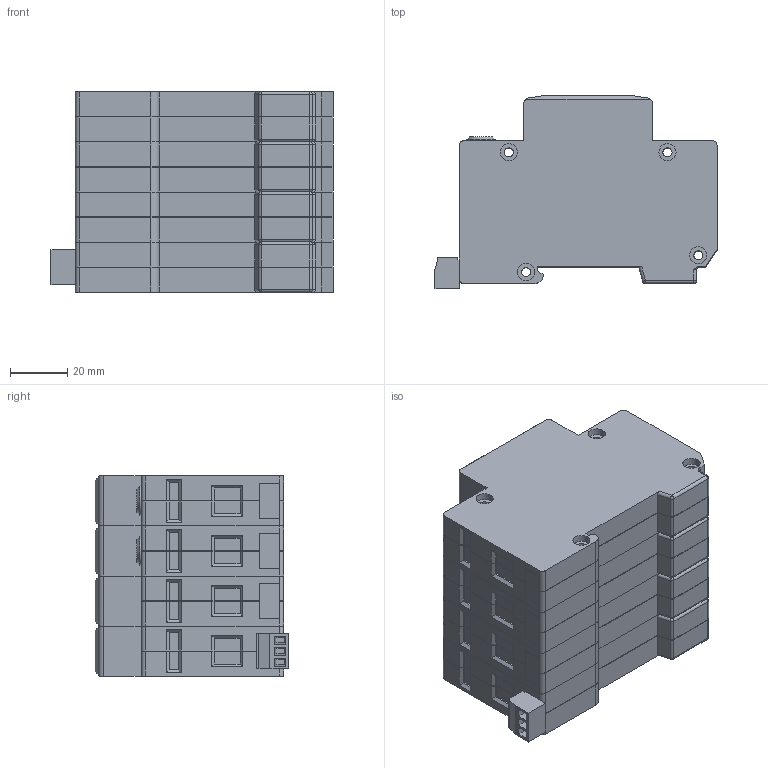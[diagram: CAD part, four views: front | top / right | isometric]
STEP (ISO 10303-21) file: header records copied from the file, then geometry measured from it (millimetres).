
FILE_DESCRIPTION(/* description */ (''),/* implementation_level */ '2;1');
FILE_NAME(/* name */ 'K:\PROJEKTY ROZPRACOVANÉ\MODELY DO KATALOGU\HSA, HLSA 24520, 10007\3D - STEP\HLSA 4+0 S.stp',/* time_stamp */ '2020-03-17T07:37:18+01:00',/* author */ ('M Koliska'),/* organization */ (''),/* preprocessor_version */ 'ST-DEVELOPER v18',/* originating_system */ 'Autodesk Inventor 2020',/* authorisation */ '');
FILE_SCHEMA (('AUTOMOTIVE_DESIGN { 1 0 10303 214 3 1 1 }'));
Length unit declared in the file: millimetre
Products named in the file (12): HLSA 4+0 S; HLSA; HLSA_1; HLSA S; HLSA S_1; KONEKTOR DEGSON 15EDGK 3.81; KONEKTOR SAMEC; ISO 2009 - M1,6 x 2,5; KONEKTOR DEGSON 15EDGRC 3.81 (OBRÁCENÉ VÝV
ODY); HLSA (Z); HLSA (Z)_1; DIN 7985 (H) - M5x6-H
Assembly tree (18 placements, depth 4):
  HLSA 4+0 S
    HLSA (Z)  x2
      HLSA (Z)_1
      DIN 7985 (H) - M5x6-H
    HLSA
      HLSA_1
      DIN 7985 (H) - M5x6-H  x2
    HLSA S
      HLSA S_1
      DIN 7985 (H) - M5x6-H  x2
      KONEKTOR DEGSON 15EDGK 3.81
        KONEKTOR SAMEC
        ISO 2009 - M1,6 x 2,5  x3
      KONEKTOR DEGSON 15EDGRC 3.81 (OBRÁCENÉ VÝV
ODY)
Bounding box: 98.5 x 67.6 x 70 mm (x, y, z)
Volume: 338567.1 mm3; surface area: 74441.1 mm2
Topology: 15 solids, 15 shells, 1393 faces, 3787 edges, 2501 vertices
Faces by surface type: plane 1009, cylinder 226, cone 116, sphere 22, torus 20
Full cylindrical faces by diameter (mm): 0.968 x3, 1 x6, 1.171 x3, 1.6 x3, 1.9 x3, 2 x3, 2.5 x3, 3.2 x16, 4.6 x6, 5 x6, 6 x32, 10 x2
Entity records: 30054 total; most frequent: CARTESIAN_POINT 5300, ORIENTED_EDGE 5108, DIRECTION 4964, EDGE_CURVE 2554, LINE 2040, VECTOR 2040, VERTEX_POINT 1682, AXIS2_PLACEMENT_3D 1462
